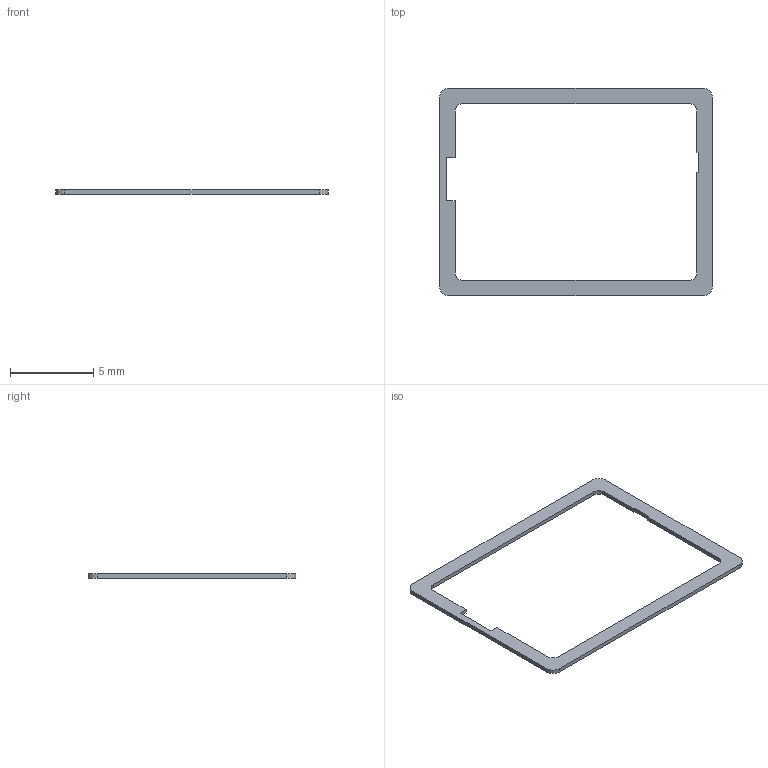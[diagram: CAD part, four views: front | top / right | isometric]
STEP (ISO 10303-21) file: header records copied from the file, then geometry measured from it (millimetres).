
FILE_DESCRIPTION(/* description */ (''),/* implementation_level */ '2;1');
FILE_NAME(/* name */ 'C28_R2_Microphone_Rear_Preload_Passive_Reliefs_REVIEW.step',/* time_stamp */ '2026-09-10T17:49:12-07:00',/* author */ (''),/* organization */ (''),/* preprocessor_version */ 'ST-DEVELOPER v20.1',/* originating_system */ 'Autodesk Translation Framework v15.8.0.0',/* authorisation */ '');
FILE_SCHEMA (('AUTOMOTIVE_DESIGN { 1 0 10303 214 3 1 1 }'));
Length unit declared in the file: millimetre
Products named in the file (1): 2026-09-10-17-49-12-518
Bounding box: 16.35 x 12.45 x 0.25 mm (x, y, z)
Volume: 12.1 mm3; surface area: 123.5 mm2
Topology: 1 solids, 1 shells, 26 faces, 72 edges, 48 vertices
Faces by surface type: plane 18, cylinder 8
Entity records: 869 total; most frequent: CARTESIAN_POINT 147, ORIENTED_EDGE 144, DIRECTION 142, EDGE_CURVE 72, LINE 56, VECTOR 56, VERTEX_POINT 48, AXIS2_PLACEMENT_3D 43
